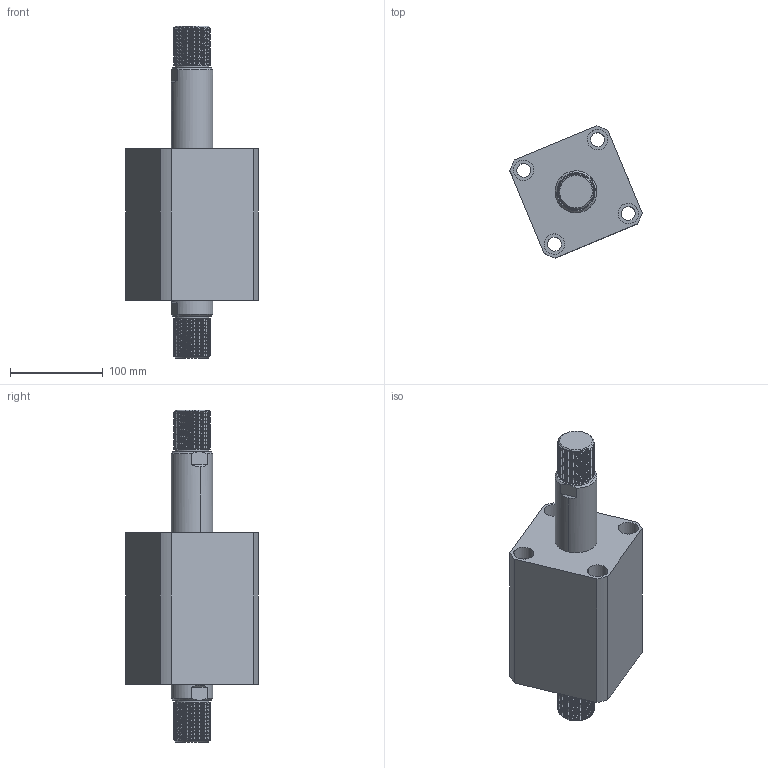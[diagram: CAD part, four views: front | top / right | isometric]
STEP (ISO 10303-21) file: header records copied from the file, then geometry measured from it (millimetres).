
FILE_DESCRIPTION (( 'STEP AP214' ), '1' );
FILE_NAME ('chtb-sw80x70w_asm.STEP', '2018-05-28T01:58:30', ( 'Windows' ), ( 'Microsoft' ), 'SwSTEP 2.0', 'SolidWorks 2015', '' );
FILE_SCHEMA (( 'AUTOMOTIVE_DESIGN' ));
Length unit declared in the file: millimetre
Products named in the file (4): chtb-sw80x70w_asm; CHTB-SW80X70WHSG; CHTB-SW80X70NBT; CHTB-SD80QG
Assembly tree (3 placements, depth 2):
  chtb-sw80x70w_asm
    CHTB-SD80QG
    CHTB-SW80X70NBT
    CHTB-SW80X70WHSG
Bounding box: 142.06 x 142.06 x 357 mm (x, y, z)
Volume: 1957380.9 mm3; surface area: 263052.5 mm2
Topology: 3 solids, 3 shells, 330 faces, 908 edges, 607 vertices
Faces by surface type: cylinder 221, plane 48, cone 25, bspline 18, torus 18
Entity records: 25864 total; most frequent: CARTESIAN_POINT 18238, ORIENTED_EDGE 1808, DIRECTION 1338, EDGE_CURVE 904, VERTEX_POINT 607, AXIS2_PLACEMENT_3D 532, EDGE_LOOP 373, ADVANCED_FACE 330
